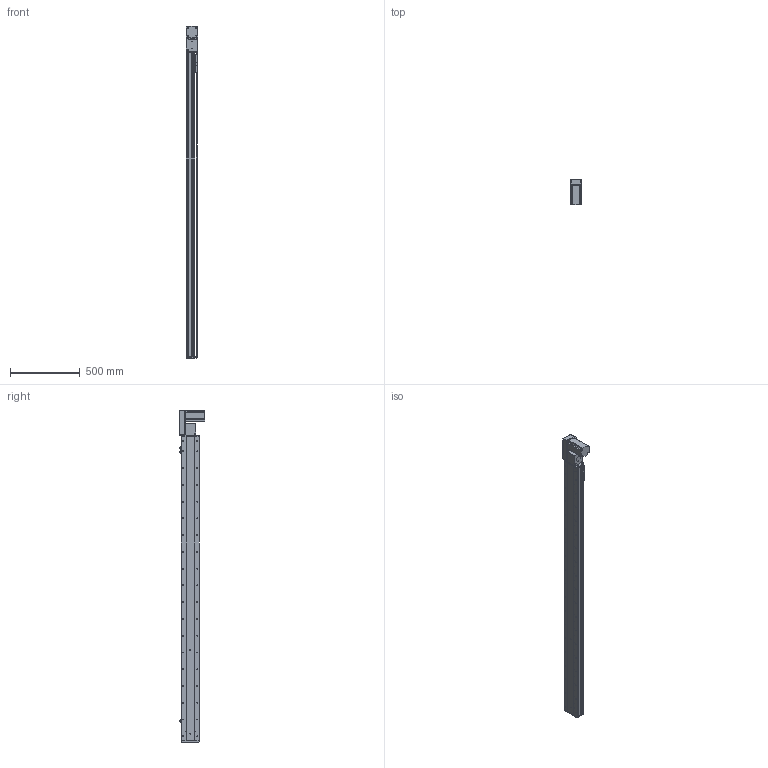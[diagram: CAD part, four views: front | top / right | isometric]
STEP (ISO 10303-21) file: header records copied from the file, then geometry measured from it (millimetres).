
FILE_DESCRIPTION (( 'STEP AP214' ), '1' );
FILE_NAME ('KSD130B-S1950-MRB-CM.STEP', '2019-11-15T08:07:48', ( '微软用户' ), ( '微软中国' ), 'SwSTEP 2.0', 'SolidWorks 2014', '' );
FILE_SCHEMA (( 'AUTOMOTIVE_DESIGN' ));
Length unit declared in the file: millimetre
Products named in the file (12): 覜茼え100遵圉猾敕; U倰嫖萇EEㄜSX672; 130宽盖板半封闭同步带-1950行程; 130宽马达安装板同步带右-改镜向_默认<按加工>; 130宽马达安装板同步带半封闭; 130宽同步带安装座半封闭; 130宽端盖同步带半封闭; 130宽底板半封闭同步带-1950行程; KSD130B-S1950-MRB-CM; 台达ECMA－C20807AS伺服电机; 130宽模组保护罩上下左右折-同步带; 130宽模组马达安装板连板左右折同步带
Assembly tree (13 placements, depth 2):
  KSD130B-S1950-MRB-CM
    130宽底板半封闭同步带-1950行程
    130宽端盖同步带半封闭
    130宽同步带安装座半封闭
    130宽马达安装板同步带半封闭
    130宽马达安装板同步带右-改镜向_默认<按加工>
    130宽盖板半封闭同步带-1950行程
    U倰嫖萇EEㄜSX672  x3
    覜茼え100遵圉猾敕
    130宽模组马达安装板连板左右折同步带
    130宽模组保护罩上下左右折-同步带
    台达ECMA－C20807AS伺服电机
Bounding box: 81 x 184.8 x 2377 mm (x, y, z)
Volume: 7550466.4 mm3; surface area: 2148357 mm2
Topology: 14 solids, 14 shells, 1779 faces, 5201 edges, 3291 vertices
Faces by surface type: cylinder 882, plane 658, cone 239
Entity records: 61147 total; most frequent: CARTESIAN_POINT 11948, DIRECTION 9187, ORIENTED_EDGE 8910, EDGE_CURVE 4455, AXIS2_PLACEMENT_3D 3390, VERTEX_POINT 2915, VECTOR 2407, LINE 2407
